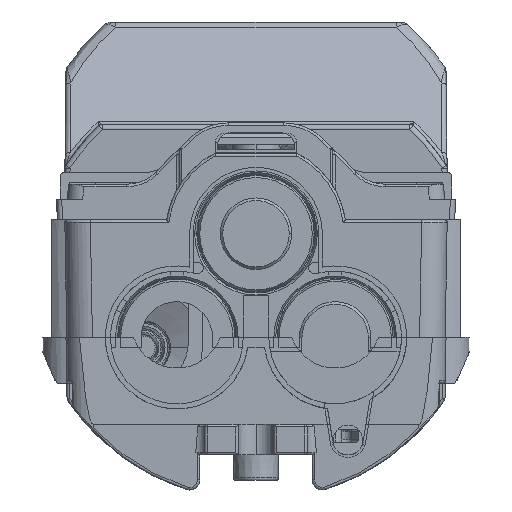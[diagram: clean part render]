
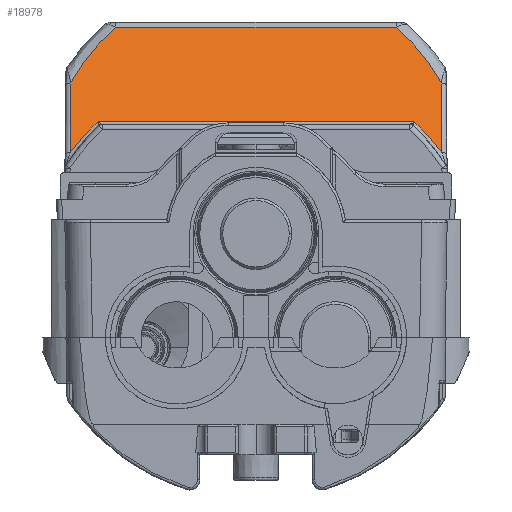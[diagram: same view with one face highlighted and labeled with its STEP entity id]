
A CAD part, left-side view. The second image highlights one B-rep face of the part: STEP entity #18978.
In plain terms, the highlighted planar face has unit normal (-0.866, 0, 0.5).
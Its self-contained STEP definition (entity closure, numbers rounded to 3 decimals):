
#130 = VERTEX_POINT ( 'NONE', #11961 ) ;
#194 = LINE ( 'NONE', #26641, #31741 ) ;
#338 = CARTESIAN_POINT ( 'NONE',  ( -161.462, 33.965, 87.941 ) ) ;
#2423 = DIRECTION ( 'NONE',  ( 0., 1., 0. ) ) ;
#3526 = CARTESIAN_POINT ( 'NONE',  ( -168.5, 38.35, 75.75 ) ) ;
#3662 = ORIENTED_EDGE ( 'NONE', *, *, #24481, .T. ) ;
#3739 = VERTEX_POINT ( 'NONE', #38011 ) ;
#4296 = VECTOR ( 'NONE', #24854, 1000. ) ;
#4462 = VERTEX_POINT ( 'NONE', #28937 ) ;
#5472 = ORIENTED_EDGE ( 'NONE', *, *, #42351, .T. ) ;
#5582 = LINE ( 'NONE', #8208, #4296 ) ;
#5930 = CARTESIAN_POINT ( 'NONE',  ( -168.211, 30.898, 76.25 ) ) ;
#6097 = CARTESIAN_POINT ( 'NONE',  ( -170.457, -34.74, 72.361 ) ) ;
#7091 = LINE ( 'NONE', #27041, #49472 ) ;
#8201 = CARTESIAN_POINT ( 'NONE',  ( -159.336, 31.001, 91.623 ) ) ;
#8208 = CARTESIAN_POINT ( 'NONE',  ( -168.211, 38.35, 76.25 ) ) ;
#10102 = VERTEX_POINT ( 'NONE', #47114 ) ;
#10460 = CARTESIAN_POINT ( 'NONE',  ( -170.457, 34.74, 72.361 ) ) ;
#10570 = EDGE_CURVE ( 'NONE', #3739, #10102, #7091, .T. ) ;
#11599 =( BOUNDED_CURVE ( )  B_SPLINE_CURVE ( 3, ( #31596, #35835, #39954, #15179 ),
 .UNSPECIFIED., .F., .T. ) 
 B_SPLINE_CURVE_WITH_KNOTS ( ( 4, 4 ),
 ( 5.22, 5.56 ),
 .UNSPECIFIED. ) 
 CURVE ( )  GEOMETRIC_REPRESENTATION_ITEM ( )  RATIONAL_B_SPLINE_CURVE ( ( 1., 0.99, 0.99, 1. ) ) 
 REPRESENTATION_ITEM ( '' )  );
#11961 = CARTESIAN_POINT ( 'NONE',  ( -171.72, 36.383, 70.173 ) ) ;
#13308 = EDGE_CURVE ( 'NONE', #37039, #4462, #5582, .T. ) ;
#14635 = CARTESIAN_POINT ( 'NONE',  ( -168.211, 30.898, 76.25 ) ) ;
#15179 = CARTESIAN_POINT ( 'NONE',  ( -157.53, -27.457, 94.75 ) ) ;
#15772 = VECTOR ( 'NONE', #27839, 1000. ) ;
#16550 =( BOUNDED_CURVE ( )  B_SPLINE_CURVE ( 3, ( #34798, #46994, #6097, #34986 ),
 .UNSPECIFIED., .F., .F. ) 
 B_SPLINE_CURVE_WITH_KNOTS ( ( 4, 4 ),
 ( 3.888, 4.068 ),
 .UNSPECIFIED. ) 
 CURVE ( )  GEOMETRIC_REPRESENTATION_ITEM ( )  RATIONAL_B_SPLINE_CURVE ( ( 1., 0.997, 0.997, 1. ) ) 
 REPRESENTATION_ITEM ( '' )  );
#18978 = ADVANCED_FACE ( 'NONE', ( #31498 ), #36492, .T. ) ;
#19347 =( BOUNDED_CURVE ( )  B_SPLINE_CURVE ( 3, ( #31047, #10460, #39410, #14635 ),
 .UNSPECIFIED., .F., .T. ) 
 B_SPLINE_CURVE_WITH_KNOTS ( ( 4, 4 ),
 ( 2.215, 2.395 ),
 .UNSPECIFIED. ) 
 CURVE ( )  GEOMETRIC_REPRESENTATION_ITEM ( )  RATIONAL_B_SPLINE_CURVE ( ( 1., 0.997, 0.997, 1. ) ) 
 REPRESENTATION_ITEM ( '' )  );
#20093 = DIRECTION ( 'NONE',  ( 0.5, 0., 0.866 ) ) ;
#20923 = ORIENTED_EDGE ( 'NONE', *, *, #13308, .T. ) ;
#20936 = CARTESIAN_POINT ( 'NONE',  ( -157.53, 27.457, 94.75 ) ) ;
#21792 = EDGE_CURVE ( 'NONE', #10102, #50235, #21862, .T. ) ;
#21856 = ORIENTED_EDGE ( 'NONE', *, *, #22730, .T. ) ;
#21862 =( BOUNDED_CURVE ( )  B_SPLINE_CURVE ( 3, ( #20936, #8201, #338, #29152 ),
 .UNSPECIFIED., .F., .T. ) 
 B_SPLINE_CURVE_WITH_KNOTS ( ( 4, 4 ),
 ( 0.723, 1.063 ),
 .UNSPECIFIED. ) 
 CURVE ( )  GEOMETRIC_REPRESENTATION_ITEM ( )  RATIONAL_B_SPLINE_CURVE ( ( 1., 0.99, 0.99, 1. ) ) 
 REPRESENTATION_ITEM ( '' )  );
#22730 = EDGE_CURVE ( 'NONE', #130, #37039, #19347, .T. ) ;
#24463 = ORIENTED_EDGE ( 'NONE', *, *, #10570, .T. ) ;
#24481 = EDGE_CURVE ( 'NONE', #50235, #130, #37800, .T. ) ;
#24854 = DIRECTION ( 'NONE',  ( 0., -1., 0. ) ) ;
#25645 = AXIS2_PLACEMENT_3D ( 'NONE', #3526, #44620, #20093 ) ;
#26641 = CARTESIAN_POINT ( 'NONE',  ( -168.218, -36.33, 76.239 ) ) ;
#27041 = CARTESIAN_POINT ( 'NONE',  ( -157.53, 26.28, 94.75 ) ) ;
#27766 = ORIENTED_EDGE ( 'NONE', *, *, #21792, .T. ) ;
#27839 = DIRECTION ( 'NONE',  ( -0.5, 0.008, -0.866 ) ) ;
#28937 = CARTESIAN_POINT ( 'NONE',  ( -168.211, -30.898, 76.25 ) ) ;
#29152 = CARTESIAN_POINT ( 'NONE',  ( -163.846, 36.264, 83.81 ) ) ;
#31047 = CARTESIAN_POINT ( 'NONE',  ( -171.72, 36.383, 70.173 ) ) ;
#31498 = FACE_OUTER_BOUND ( 'NONE', #49099, .T. ) ;
#31596 = CARTESIAN_POINT ( 'NONE',  ( -163.846, -36.264, 83.81 ) ) ;
#31741 = VECTOR ( 'NONE', #34806, 1000. ) ;
#32540 = CARTESIAN_POINT ( 'NONE',  ( -163.846, -36.264, 83.81 ) ) ;
#33274 = VERTEX_POINT ( 'NONE', #50305 ) ;
#34798 = CARTESIAN_POINT ( 'NONE',  ( -168.211, -30.898, 76.25 ) ) ;
#34806 = DIRECTION ( 'NONE',  ( 0.5, 0.008, 0.866 ) ) ;
#34986 = CARTESIAN_POINT ( 'NONE',  ( -171.72, -36.383, 70.173 ) ) ;
#35835 = CARTESIAN_POINT ( 'NONE',  ( -161.462, -33.965, 87.941 ) ) ;
#36492 = PLANE ( 'NONE',  #25645 ) ;
#37039 = VERTEX_POINT ( 'NONE', #5930 ) ;
#37800 = LINE ( 'NONE', #44119, #15772 ) ;
#38011 = CARTESIAN_POINT ( 'NONE',  ( -157.53, -27.457, 94.75 ) ) ;
#39410 = CARTESIAN_POINT ( 'NONE',  ( -169.284, 32.907, 74.392 ) ) ;
#39942 = CARTESIAN_POINT ( 'NONE',  ( -163.846, 36.264, 83.81 ) ) ;
#39954 = CARTESIAN_POINT ( 'NONE',  ( -159.336, -31.001, 91.623 ) ) ;
#42351 = EDGE_CURVE ( 'NONE', #33274, #42551, #194, .T. ) ;
#42551 = VERTEX_POINT ( 'NONE', #32540 ) ;
#44119 = CARTESIAN_POINT ( 'NONE',  ( -168.508, 36.334, 75.737 ) ) ;
#44620 = DIRECTION ( 'NONE',  ( -0.866, 0., 0.5 ) ) ;
#46097 = ORIENTED_EDGE ( 'NONE', *, *, #47389, .T. ) ;
#46994 = CARTESIAN_POINT ( 'NONE',  ( -169.284, -32.907, 74.392 ) ) ;
#47114 = CARTESIAN_POINT ( 'NONE',  ( -157.53, 27.457, 94.75 ) ) ;
#47389 = EDGE_CURVE ( 'NONE', #42551, #3739, #11599, .T. ) ;
#48840 = ORIENTED_EDGE ( 'NONE', *, *, #51876, .T. ) ;
#49099 = EDGE_LOOP ( 'NONE', ( #46097, #24463, #27766, #3662, #21856, #20923, #48840, #5472 ) ) ;
#49472 = VECTOR ( 'NONE', #2423, 1000. ) ;
#50235 = VERTEX_POINT ( 'NONE', #39942 ) ;
#50305 = CARTESIAN_POINT ( 'NONE',  ( -171.72, -36.383, 70.173 ) ) ;
#51876 = EDGE_CURVE ( 'NONE', #4462, #33274, #16550, .T. ) ;
